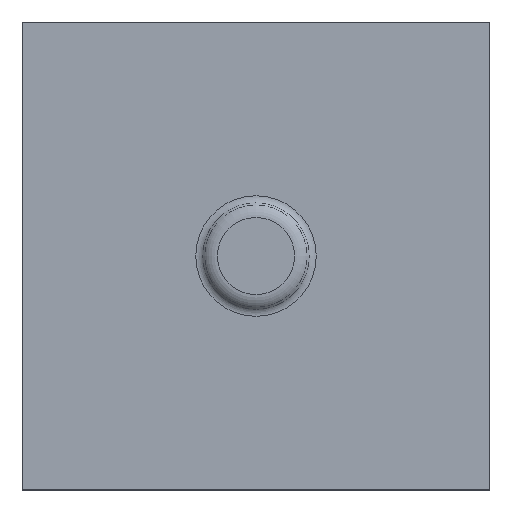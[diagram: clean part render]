
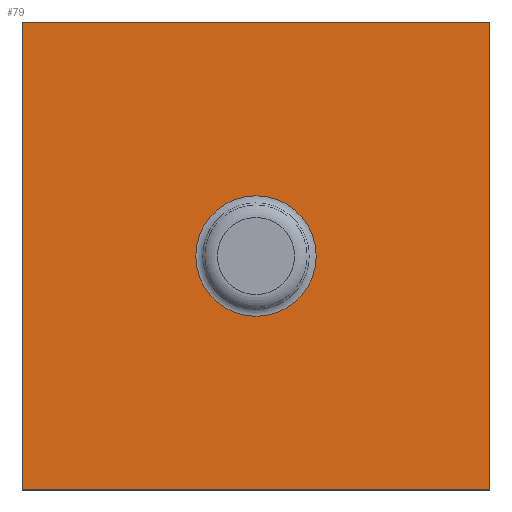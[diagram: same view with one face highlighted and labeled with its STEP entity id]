
A CAD part, top view. The second image highlights one B-rep face of the part: STEP entity #79.
In plain terms, the highlighted planar face has unit normal (0, 0, 1).
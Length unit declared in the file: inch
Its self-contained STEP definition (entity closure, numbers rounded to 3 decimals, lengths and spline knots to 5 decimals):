
#79=ADVANCED_FACE('',(#98,#99),#100,.F.);
#98=FACE_OUTER_BOUND('',#134,.T.);
#99=FACE_BOUND('',#135,.T.);
#100=PLANE('',#136);
#134=EDGE_LOOP('',(#190,#191,#192,#193));
#135=EDGE_LOOP('',(#194));
#136=AXIS2_PLACEMENT_3D('',#195,#196,#197);
#190=ORIENTED_EDGE('',*,*,#253,.T.);
#191=ORIENTED_EDGE('',*,*,#256,.T.);
#192=ORIENTED_EDGE('',*,*,#246,.T.);
#193=ORIENTED_EDGE('',*,*,#250,.T.);
#194=ORIENTED_EDGE('',*,*,#258,.T.);
#195=CARTESIAN_POINT('',(-8.124,5.93861,-0.00239));
#196=DIRECTION('',(0.0,0.,-1.0));
#197=DIRECTION('',(1.0,0.0,0.0));
#246=EDGE_CURVE('',#267,#268,#269,.T.);
#250=EDGE_CURVE('',#268,#275,#276,.T.);
#253=EDGE_CURVE('',#275,#280,#281,.T.);
#256=EDGE_CURVE('',#280,#267,#285,.T.);
#258=EDGE_CURVE('',#287,#287,#288,.T.);
#267=VERTEX_POINT('',#305);
#268=VERTEX_POINT('',#306);
#269=LINE('',#307,#308);
#275=VERTEX_POINT('',#317);
#276=LINE('',#318,#319);
#280=VERTEX_POINT('',#325);
#281=LINE('',#326,#327);
#285=LINE('',#333,#334);
#287=VERTEX_POINT('',#337);
#288=CIRCLE('',#338,0.25752);
#305=CARTESIAN_POINT('',(-1.82482,7.33302,-0.00239));
#306=CARTESIAN_POINT('',(-3.82499,7.33302,-0.00239));
#307=CARTESIAN_POINT('',(-5.4572,7.33302,-0.00239));
#308=VECTOR('',#355,1.0);
#317=CARTESIAN_POINT('',(-3.82499,5.33284,-0.00239));
#318=CARTESIAN_POINT('',(-3.82499,6.13227,-0.00239));
#319=VECTOR('',#359,1.0);
#325=CARTESIAN_POINT('',(-1.82482,5.33284,-0.00239));
#326=CARTESIAN_POINT('',(-5.4572,5.33284,-0.00239));
#327=VECTOR('',#362,1.0);
#333=CARTESIAN_POINT('',(-1.82482,6.13227,-0.00239));
#334=VECTOR('',#365,1.0);
#337=CARTESIAN_POINT('',(-3.08252,6.33261,-0.00239));
#338=AXIS2_PLACEMENT_3D('',#367,#368,#369);
#355=DIRECTION('',(-1.0,0.0,-0.0));
#359=DIRECTION('',(0.0,-1.0,0.));
#362=DIRECTION('',(1.0,0.0,0.0));
#365=DIRECTION('',(0.0,1.0,0.));
#367=CARTESIAN_POINT('',(-2.825,6.33261,-0.00239));
#368=DIRECTION('',(0.0,0.,-1.0));
#369=DIRECTION('',(1.0,0.,0.));
